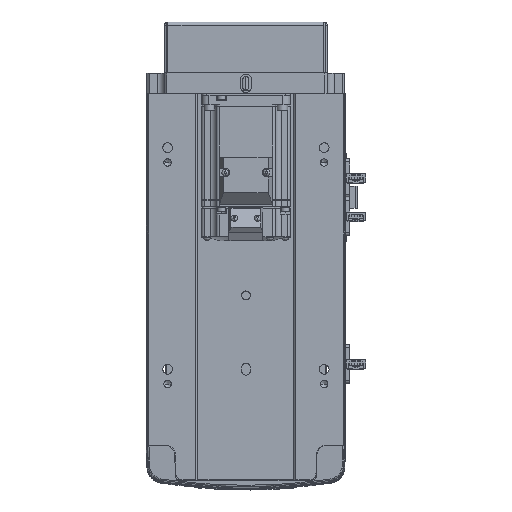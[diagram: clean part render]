
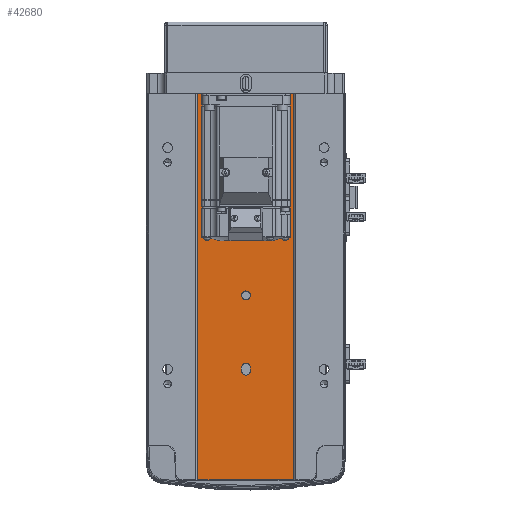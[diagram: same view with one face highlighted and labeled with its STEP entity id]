
A CAD part, top view. The second image highlights one B-rep face of the part: STEP entity #42680.
In plain terms, the highlighted planar face has unit normal (0, 0, 1).
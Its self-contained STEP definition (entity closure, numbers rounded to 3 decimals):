
#836 = ORIENTED_EDGE ( 'NONE', *, *, #14194, .F. ) ;
#1055 = VERTEX_POINT ( 'NONE', #6359 ) ;
#1212 = LINE ( 'NONE', #18331, #10794 ) ;
#1659 = AXIS2_PLACEMENT_3D ( 'NONE', #12545, #45199, #36118 ) ;
#1889 = LINE ( 'NONE', #59024, #37882 ) ;
#2317 = LINE ( 'NONE', #36643, #59015 ) ;
#3133 = CIRCLE ( 'NONE', #31394, 3. ) ;
#3358 = EDGE_LOOP ( 'NONE', ( #31440, #836, #40183, #9942 ) ) ;
#3587 = ORIENTED_EDGE ( 'NONE', *, *, #12594, .F. ) ;
#3660 = CARTESIAN_POINT ( 'NONE',  ( -3., -136.5, 35.45 ) ) ;
#4978 = VERTEX_POINT ( 'NONE', #57015 ) ;
#5271 = FACE_BOUND ( 'NONE', #39411, .T. ) ;
#5938 = EDGE_CURVE ( 'NONE', #47800, #4978, #7709, .T. ) ;
#6359 = CARTESIAN_POINT ( 'NONE',  ( 3., -185.5, 35.45 ) ) ;
#7709 = LINE ( 'NONE', #13502, #38578 ) ;
#8317 = CARTESIAN_POINT ( 'NONE',  ( 0., -185.5, 35.45 ) ) ;
#9178 = CIRCLE ( 'NONE', #56251, 3. ) ;
#9806 = CARTESIAN_POINT ( 'NONE',  ( 0., -136.5, 35.45 ) ) ;
#9942 = ORIENTED_EDGE ( 'NONE', *, *, #53689, .T. ) ;
#10794 = VECTOR ( 'NONE', #41108, 1000. ) ;
#12545 = CARTESIAN_POINT ( 'NONE',  ( 0., -136.5, 35.45 ) ) ;
#12594 = EDGE_CURVE ( 'NONE', #4978, #54666, #33659, .T. ) ;
#13502 = CARTESIAN_POINT ( 'NONE',  ( -3., -185.5, 35.45 ) ) ;
#14194 = EDGE_CURVE ( 'NONE', #30077, #18821, #40851, .T. ) ;
#14489 = DIRECTION ( 'NONE',  ( 1., 0., 0. ) ) ;
#15020 = CARTESIAN_POINT ( 'NONE',  ( -32.5, -261.5, 35.45 ) ) ;
#15270 = EDGE_CURVE ( 'NONE', #36339, #35398, #9178, .T. ) ;
#16134 = VECTOR ( 'NONE', #19806, 1000. ) ;
#16445 = EDGE_CURVE ( 'NONE', #1055, #47800, #3133, .T. ) ;
#16834 = DIRECTION ( 'NONE',  ( 1., 0., 0. ) ) ;
#18331 = CARTESIAN_POINT ( 'NONE',  ( 32.5, -261.5, 35.45 ) ) ;
#18346 = AXIS2_PLACEMENT_3D ( 'NONE', #41030, #27272, #59599 ) ;
#18821 = VERTEX_POINT ( 'NONE', #34262 ) ;
#19358 = DIRECTION ( 'NONE',  ( 0., 1., 0. ) ) ;
#19694 = DIRECTION ( 'NONE',  ( 0., 0., 1. ) ) ;
#19806 = DIRECTION ( 'NONE',  ( 0., 1., 0. ) ) ;
#21408 = ORIENTED_EDGE ( 'NONE', *, *, #16445, .F. ) ;
#22074 = ORIENTED_EDGE ( 'NONE', *, *, #5938, .F. ) ;
#22092 = VERTEX_POINT ( 'NONE', #31346 ) ;
#22164 = CIRCLE ( 'NONE', #1659, 3. ) ;
#22939 = ORIENTED_EDGE ( 'NONE', *, *, #59796, .F. ) ;
#24250 = CARTESIAN_POINT ( 'NONE',  ( -3., -185.5, 35.45 ) ) ;
#24405 = DIRECTION ( 'NONE',  ( 1., 0., 0. ) ) ;
#25748 = EDGE_CURVE ( 'NONE', #35398, #36339, #22164, .T. ) ;
#27272 = DIRECTION ( 'NONE',  ( 0., 0., 1. ) ) ;
#27398 = CARTESIAN_POINT ( 'NONE',  ( 32.5, -261.5, 35.45 ) ) ;
#28682 = EDGE_LOOP ( 'NONE', ( #44775, #56635 ) ) ;
#28747 = FACE_BOUND ( 'NONE', #28682, .T. ) ;
#30077 = VERTEX_POINT ( 'NONE', #31811 ) ;
#31344 = DIRECTION ( 'NONE',  ( 1., 0., 0. ) ) ;
#31346 = CARTESIAN_POINT ( 'NONE',  ( 32.5, 0., 35.45 ) ) ;
#31394 = AXIS2_PLACEMENT_3D ( 'NONE', #8317, #41190, #31344 ) ;
#31440 = ORIENTED_EDGE ( 'NONE', *, *, #54125, .F. ) ;
#31811 = CARTESIAN_POINT ( 'NONE',  ( -32.5, -261.5, 35.45 ) ) ;
#32381 = DIRECTION ( 'NONE',  ( 0., -1., 0. ) ) ;
#33184 = CARTESIAN_POINT ( 'NONE',  ( 0., -187.5, 35.45 ) ) ;
#33659 = CIRCLE ( 'NONE', #53333, 3. ) ;
#34262 = CARTESIAN_POINT ( 'NONE',  ( -32.5, 0., 35.45 ) ) ;
#35398 = VERTEX_POINT ( 'NONE', #3660 ) ;
#36118 = DIRECTION ( 'NONE',  ( 1., 0., 0. ) ) ;
#36339 = VERTEX_POINT ( 'NONE', #53619 ) ;
#36474 = PLANE ( 'NONE',  #18346 ) ;
#36643 = CARTESIAN_POINT ( 'NONE',  ( -32.5, -261.5, 35.45 ) ) ;
#37142 = VECTOR ( 'NONE', #19358, 1000. ) ;
#37269 = DIRECTION ( 'NONE',  ( 1., 0., 0. ) ) ;
#37882 = VECTOR ( 'NONE', #16834, 1000. ) ;
#38578 = VECTOR ( 'NONE', #32381, 1000. ) ;
#39411 = EDGE_LOOP ( 'NONE', ( #21408, #22939, #3587, #22074 ) ) ;
#40183 = ORIENTED_EDGE ( 'NONE', *, *, #56156, .T. ) ;
#40851 = LINE ( 'NONE', #15020, #37142 ) ;
#41030 = CARTESIAN_POINT ( 'NONE',  ( -32.5, -261.5, 35.45 ) ) ;
#41108 = DIRECTION ( 'NONE',  ( 0., 1., 0. ) ) ;
#41190 = DIRECTION ( 'NONE',  ( 0., 0., 1. ) ) ;
#42680 = ADVANCED_FACE ( 'NONE', ( #28747, #5271, #43462 ), #36474, .T. ) ;
#43462 = FACE_OUTER_BOUND ( 'NONE', #3358, .T. ) ;
#44775 = ORIENTED_EDGE ( 'NONE', *, *, #15270, .F. ) ;
#45199 = DIRECTION ( 'NONE',  ( 0., 0., 1. ) ) ;
#47800 = VERTEX_POINT ( 'NONE', #24250 ) ;
#51417 = VERTEX_POINT ( 'NONE', #27398 ) ;
#52145 = DIRECTION ( 'NONE',  ( 0., 0., 1. ) ) ;
#52895 = CARTESIAN_POINT ( 'NONE',  ( 3., -185.5, 35.45 ) ) ;
#53333 = AXIS2_PLACEMENT_3D ( 'NONE', #33184, #52145, #14489 ) ;
#53619 = CARTESIAN_POINT ( 'NONE',  ( 3., -136.5, 35.45 ) ) ;
#53689 = EDGE_CURVE ( 'NONE', #51417, #22092, #1212, .T. ) ;
#54125 = EDGE_CURVE ( 'NONE', #18821, #22092, #1889, .T. ) ;
#54532 = CARTESIAN_POINT ( 'NONE',  ( 3., -187.5, 35.45 ) ) ;
#54666 = VERTEX_POINT ( 'NONE', #54532 ) ;
#56156 = EDGE_CURVE ( 'NONE', #30077, #51417, #2317, .T. ) ;
#56251 = AXIS2_PLACEMENT_3D ( 'NONE', #9806, #19694, #24405 ) ;
#56635 = ORIENTED_EDGE ( 'NONE', *, *, #25748, .F. ) ;
#57015 = CARTESIAN_POINT ( 'NONE',  ( -3., -187.5, 35.45 ) ) ;
#57360 = LINE ( 'NONE', #52895, #16134 ) ;
#59015 = VECTOR ( 'NONE', #37269, 1000. ) ;
#59024 = CARTESIAN_POINT ( 'NONE',  ( -32.5, 0., 35.45 ) ) ;
#59599 = DIRECTION ( 'NONE',  ( 1., 0., 0. ) ) ;
#59796 = EDGE_CURVE ( 'NONE', #54666, #1055, #57360, .T. ) ;
